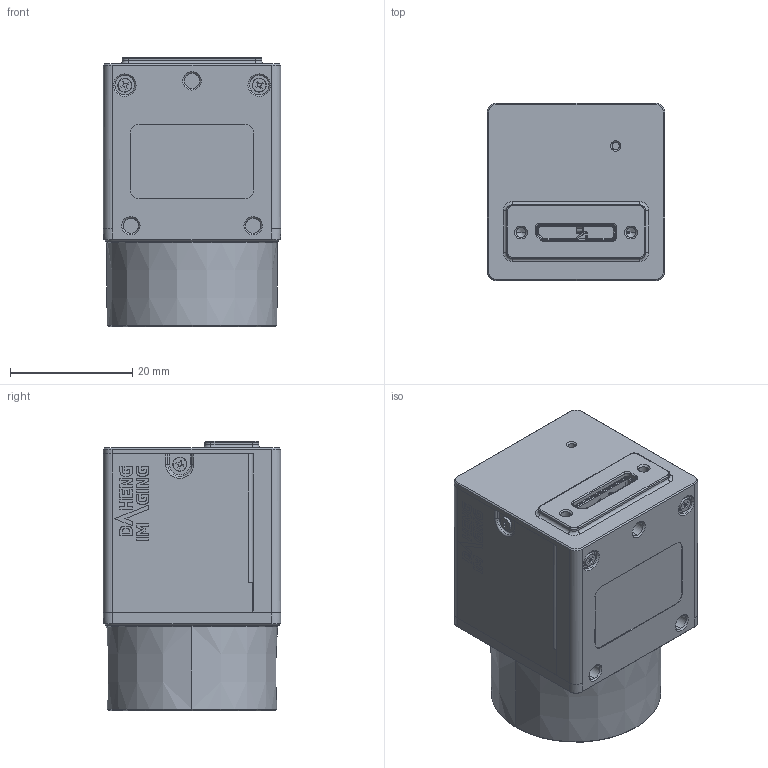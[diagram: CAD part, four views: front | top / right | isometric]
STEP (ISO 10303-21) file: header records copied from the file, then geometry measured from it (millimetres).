
FILE_DESCRIPTION (( 'STEP AP203' ), '1' );
FILE_NAME ('mer2_u3_l_user_a1.0.0.STEP', '2019-09-26T06:28:04', ( '' ), ( '' ), 'SwSTEP 2.0', 'SolidWorks 2016', '' );
FILE_SCHEMA (( 'CONFIG_CONTROL_DESIGN' ));
Length unit declared in the file: millimetre
Products named in the file (1): mer2_u3_l_user_a1.0.0
Bounding box: 29 x 29 x 44.05 mm (x, y, z)
Volume: 22870.3 mm3; surface area: 17953.9 mm2
Topology: 8 solids, 17 shells, 1826 faces, 4932 edges, 3135 vertices
Faces by surface type: plane 944, cylinder 572, torus 114, cone 102, bspline 92, sphere 2
Entity records: 61335 total; most frequent: CARTESIAN_POINT 16281, ORIENTED_EDGE 9820, DIRECTION 8865, EDGE_CURVE 4910, VERTEX_POINT 3135, VECTOR 3047, LINE 3047, AXIS2_PLACEMENT_3D 2909
